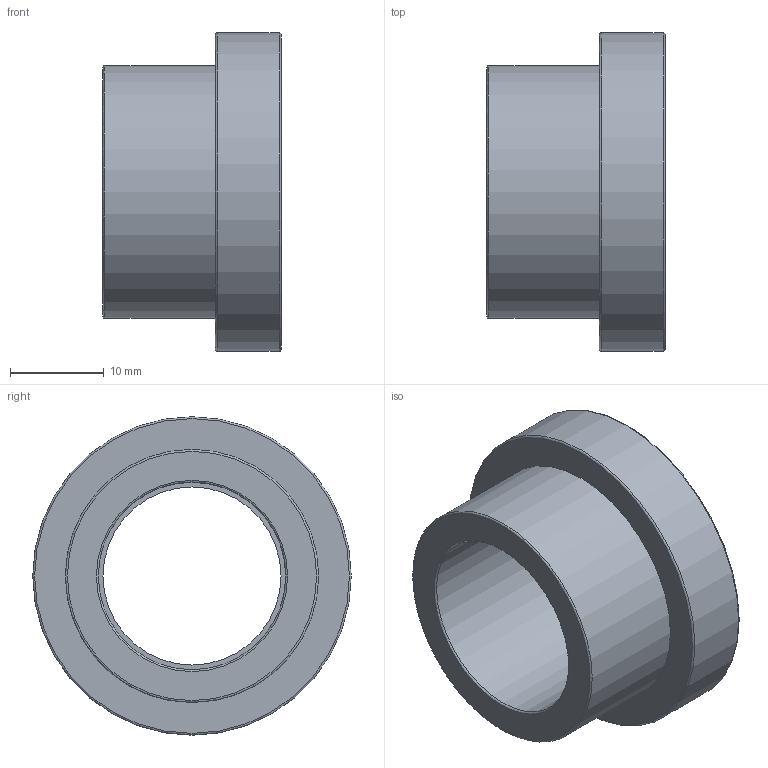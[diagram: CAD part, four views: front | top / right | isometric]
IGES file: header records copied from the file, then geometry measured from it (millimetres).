
Global section: file name: 055200020.ipt; native system: Autodesk Inventor 2015; preprocessor: unknown; author: KIM; date: 20171207.165736; units: millimetre
Bounding box: 19 x 34 x 34 mm (x, y, z)
Volume: 7033 mm3; surface area: 4465.5 mm2
Topology: 1 solids, 1 shells, 33 faces, 97 edges, 73 vertices
Faces by surface type: revolution 20, plane 9, cylinder 4
Full cylindrical faces by diameter (mm): 24 x1, 27 x1, 29 x1, 34 x1
